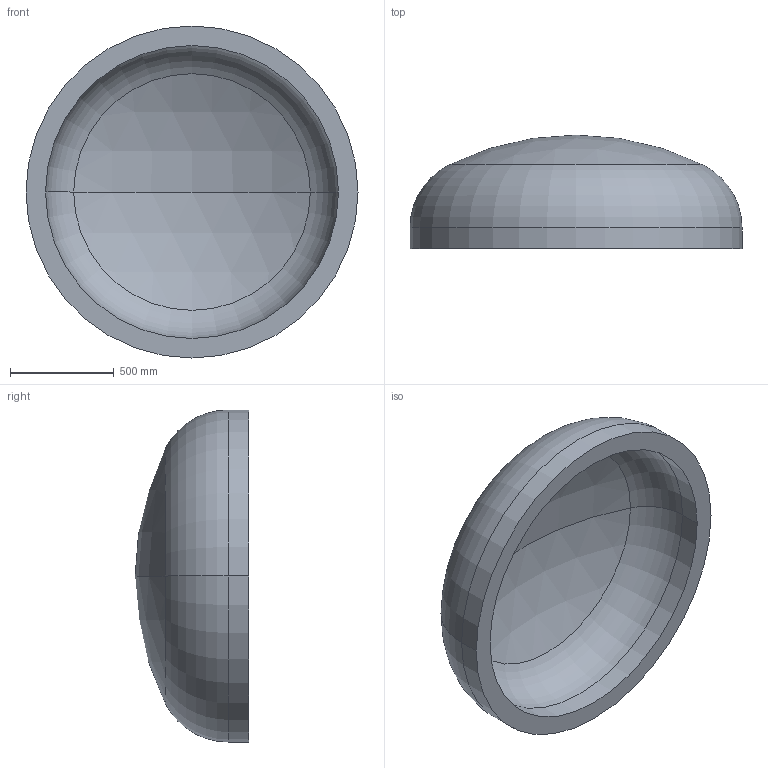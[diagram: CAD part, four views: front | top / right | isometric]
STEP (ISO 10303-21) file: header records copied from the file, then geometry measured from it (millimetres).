
FILE_DESCRIPTION (( 'STEP AP203' ), '1' );
FILE_NAME ('DIN 28013 Korbbogenform_-_Boden DIN 28013 - 1600 x 100 - I - s=94.step', '2016-07-01T11:28:34', ( '' ), ( '' ), 'SwSTEP 2.0', 'SolidWorks 2013', '' );
FILE_SCHEMA (( 'CONFIG_CONTROL_DESIGN' ));
Length unit declared in the file: millimetre
Products named in the file (1): DIN 28013 Korbbogenform_-_Boden DIN 28013 - 1600 x 100 - I - s=94
Bounding box: 1600 x 547.34 x 1600 mm (x, y, z)
Volume: 287043865.8 mm3; surface area: 6570557.3 mm2
Topology: 1 solids, 1 shells, 13 faces, 24 edges, 14 vertices
Faces by surface type: torus 4, cylinder 4, sphere 4, plane 1
Entity records: 407 total; most frequent: DIRECTION 72, CARTESIAN_POINT 52, ORIENTED_EDGE 48, AXIS2_PLACEMENT_3D 34, EDGE_CURVE 24, CIRCLE 20, EDGE_LOOP 14, VERTEX_POINT 14
